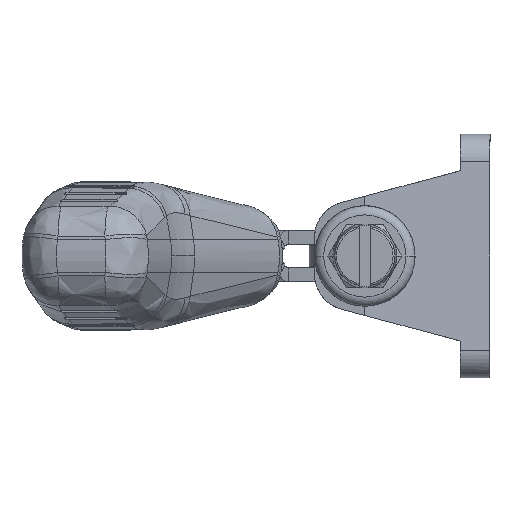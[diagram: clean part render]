
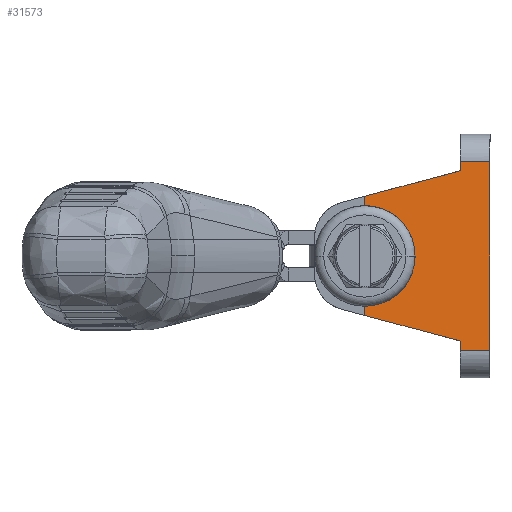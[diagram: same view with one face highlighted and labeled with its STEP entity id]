
A CAD part, left-side view. The second image highlights one B-rep face of the part: STEP entity #31573.
In plain terms, the highlighted planar face has unit normal (-0.994, -0.113, 0).
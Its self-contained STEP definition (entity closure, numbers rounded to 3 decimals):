
#1 = VECTOR ( 'NONE', #24706, 1000. ) ;
#102 = VERTEX_POINT ( 'NONE', #7738 ) ;
#174 = VECTOR ( 'NONE', #4696, 1000. ) ;
#316 = CARTESIAN_POINT ( 'NONE',  ( -17.574, -5.153, 16.585 ) ) ;
#743 = CARTESIAN_POINT ( 'NONE',  ( -16.959, -10.556, 7.16 ) ) ;
#1156 = VERTEX_POINT ( 'NONE', #6112 ) ;
#1484 = ORIENTED_EDGE ( 'NONE', *, *, #8696, .F. ) ;
#1755 = DIRECTION ( 'NONE',  ( 0., 0., -1. ) ) ;
#2256 = EDGE_CURVE ( 'NONE', #102, #10271, #28409, .T. ) ;
#2389 = LINE ( 'NONE', #31812, #6718 ) ;
#2984 = EDGE_CURVE ( 'NONE', #25524, #16398, #21893, .T. ) ;
#3245 = ORIENTED_EDGE ( 'NONE', *, *, #2256, .F. ) ;
#4384 = LINE ( 'NONE', #9190, #10253 ) ;
#4696 = DIRECTION ( 'NONE',  ( 0., 0., 1. ) ) ;
#4849 = CARTESIAN_POINT ( 'NONE',  ( -18.201, 0.347, 22.085 ) ) ;
#5042 = CARTESIAN_POINT ( 'NONE',  ( -18.201, 0.347, 11.085 ) ) ;
#5190 = ORIENTED_EDGE ( 'NONE', *, *, #5200, .F. ) ;
#5200 = EDGE_CURVE ( 'NONE', #25524, #27705, #31192, .T. ) ;
#5201 = DIRECTION ( 'NONE',  ( 0., 0., 1. ) ) ;
#6023 = ORIENTED_EDGE ( 'NONE', *, *, #18972, .F. ) ;
#6112 = CARTESIAN_POINT ( 'NONE',  ( -18.201, 0.347, 11.085 ) ) ;
#6309 = EDGE_CURVE ( 'NONE', #12832, #29922, #19453, .T. ) ;
#6718 = VECTOR ( 'NONE', #1755, 1000. ) ;
#7186 = EDGE_CURVE ( 'NONE', #31962, #10271, #26691, .T. ) ;
#7738 = CARTESIAN_POINT ( 'NONE',  ( -17.574, -5.153, 16.585 ) ) ;
#7757 = DIRECTION ( 'NONE',  ( 0.994, 0.113, 0. ) ) ;
#7991 = LINE ( 'NONE', #743, #26414 ) ;
#8180 = VECTOR ( 'NONE', #5201, 1000. ) ;
#8536 = VECTOR ( 'NONE', #26398, 1000. ) ;
#8696 = EDGE_CURVE ( 'NONE', #1156, #102, #21601, .T. ) ;
#8871 = CARTESIAN_POINT ( 'NONE',  ( -17.01, -10.103, 26.92 ) ) ;
#9127 = EDGE_CURVE ( 'NONE', #11790, #16398, #28169, .T. ) ;
#9190 = CARTESIAN_POINT ( 'NONE',  ( -16.64, -13.353, 6.25 ) ) ;
#9493 = DIRECTION ( 'NONE',  ( 0.109, -0.96, 0.257 ) ) ;
#9906 = CARTESIAN_POINT ( 'NONE',  ( -17.574, -5.153, 16.585 ) ) ;
#10151 = ORIENTED_EDGE ( 'NONE', *, *, #2984, .T. ) ;
#10253 = VECTOR ( 'NONE', #29242, 1000. ) ;
#10271 = VERTEX_POINT ( 'NONE', #4849 ) ;
#10288 = CARTESIAN_POINT ( 'NONE',  ( -17.834, -2.875, 11.085 ) ) ;
#11231 = ORIENTED_EDGE ( 'NONE', *, *, #7186, .T. ) ;
#11790 = VERTEX_POINT ( 'NONE', #28131 ) ;
#12832 = VERTEX_POINT ( 'NONE', #20150 ) ;
#13017 = FACE_OUTER_BOUND ( 'NONE', #26368, .T. ) ;
#13271 = AXIS2_PLACEMENT_3D ( 'NONE', #17763, #7757, #25282 ) ;
#13544 = VECTOR ( 'NONE', #30682, 1000. ) ;
#14731 = CARTESIAN_POINT ( 'NONE',  ( -18.201, 0.347, 25.92 ) ) ;
#14975 = CARTESIAN_POINT ( 'NONE',  ( -18.201, 0.347, 22.085 ) ) ;
#15379 = CARTESIAN_POINT ( 'NONE',  ( -17.574, -5.153, 13.363 ) ) ;
#15698 = CARTESIAN_POINT ( 'NONE',  ( -16.64, -13.353, 16.585 ) ) ;
#15922 = VECTOR ( 'NONE', #9493, 1000. ) ;
#16398 = VERTEX_POINT ( 'NONE', #30661 ) ;
#17714 = CARTESIAN_POINT ( 'NONE',  ( -17.01, -10.103, 16.585 ) ) ;
#17763 = CARTESIAN_POINT ( 'NONE',  ( -17.01, -10.103, 16.585 ) ) ;
#17834 = EDGE_CURVE ( 'NONE', #31962, #11790, #22576, .T. ) ;
#18324 = DIRECTION ( 'NONE',  ( -0.109, 0.96, 0.257 ) ) ;
#18972 = EDGE_CURVE ( 'NONE', #29922, #23980, #7991, .T. ) ;
#19453 = LINE ( 'NONE', #22390, #174 ) ;
#20150 = CARTESIAN_POINT ( 'NONE',  ( -17.01, -10.103, 6.25 ) ) ;
#20794 = CARTESIAN_POINT ( 'NONE',  ( -16.64, -13.353, 26.92 ) ) ;
#21179 = EDGE_CURVE ( 'NONE', #12832, #27705, #4384, .T. ) ;
#21601 =( BOUNDED_CURVE ( )  B_SPLINE_CURVE ( 3, ( #5042, #10288, #15379, #316 ),
 .UNSPECIFIED., .F., .F. ) 
 B_SPLINE_CURVE_WITH_KNOTS ( ( 4, 4 ),
 ( 4.712, 6.283 ),
 .UNSPECIFIED. ) 
 CURVE ( )  GEOMETRIC_REPRESENTATION_ITEM ( )  RATIONAL_B_SPLINE_CURVE ( ( 1., 0.805, 0.805, 1. ) ) 
 REPRESENTATION_ITEM ( '' )  );
#21745 = EDGE_CURVE ( 'NONE', #1156, #23980, #2389, .T. ) ;
#21893 = LINE ( 'NONE', #8871, #8536 ) ;
#22390 = CARTESIAN_POINT ( 'NONE',  ( -17.01, -10.103, 16.585 ) ) ;
#22576 = LINE ( 'NONE', #31952, #15922 ) ;
#23483 = ORIENTED_EDGE ( 'NONE', *, *, #9127, .F. ) ;
#23980 = VERTEX_POINT ( 'NONE', #31415 ) ;
#24279 = CARTESIAN_POINT ( 'NONE',  ( -17.01, -10.103, 7.282 ) ) ;
#24446 = CARTESIAN_POINT ( 'NONE',  ( -16.64, -13.353, 6.25 ) ) ;
#24706 = DIRECTION ( 'NONE',  ( 0., 0., -1. ) ) ;
#24929 = CARTESIAN_POINT ( 'NONE',  ( -17.574, -5.153, 19.807 ) ) ;
#25282 = DIRECTION ( 'NONE',  ( 0.113, -0.994, 0. ) ) ;
#25524 = VERTEX_POINT ( 'NONE', #20794 ) ;
#26368 = EDGE_LOOP ( 'NONE', ( #6023, #27951, #30532, #5190, #10151, #23483, #30269, #11231, #3245, #1484, #32243 ) ) ;
#26398 = DIRECTION ( 'NONE',  ( -0.113, 0.994, 0. ) ) ;
#26414 = VECTOR ( 'NONE', #18324, 1000. ) ;
#26691 = LINE ( 'NONE', #14731, #1 ) ;
#27705 = VERTEX_POINT ( 'NONE', #24446 ) ;
#27712 = PLANE ( 'NONE',  #13271 ) ;
#27951 = ORIENTED_EDGE ( 'NONE', *, *, #6309, .F. ) ;
#28131 = CARTESIAN_POINT ( 'NONE',  ( -17.01, -10.103, 25.92 ) ) ;
#28169 = LINE ( 'NONE', #17714, #8180 ) ;
#28409 =( BOUNDED_CURVE ( )  B_SPLINE_CURVE ( 3, ( #9906, #24929, #29960, #14975 ),
 .UNSPECIFIED., .F., .T. ) 
 B_SPLINE_CURVE_WITH_KNOTS ( ( 4, 4 ),
 ( 0., 1.571 ),
 .UNSPECIFIED. ) 
 CURVE ( )  GEOMETRIC_REPRESENTATION_ITEM ( )  RATIONAL_B_SPLINE_CURVE ( ( 1., 0.805, 0.805, 1. ) ) 
 REPRESENTATION_ITEM ( '' )  );
#29242 = DIRECTION ( 'NONE',  ( 0.113, -0.994, 0. ) ) ;
#29922 = VERTEX_POINT ( 'NONE', #24279 ) ;
#29960 = CARTESIAN_POINT ( 'NONE',  ( -17.834, -2.875, 22.085 ) ) ;
#30269 = ORIENTED_EDGE ( 'NONE', *, *, #17834, .F. ) ;
#30532 = ORIENTED_EDGE ( 'NONE', *, *, #21179, .T. ) ;
#30661 = CARTESIAN_POINT ( 'NONE',  ( -17.01, -10.103, 26.92 ) ) ;
#30682 = DIRECTION ( 'NONE',  ( 0., 0., -1. ) ) ;
#31192 = LINE ( 'NONE', #15698, #13544 ) ;
#31415 = CARTESIAN_POINT ( 'NONE',  ( -18.201, 0.347, 10.082 ) ) ;
#31573 = ADVANCED_FACE ( 'NONE', ( #13017 ), #27712, .F. ) ;
#31812 = CARTESIAN_POINT ( 'NONE',  ( -18.201, 0.347, 25.92 ) ) ;
#31952 = CARTESIAN_POINT ( 'NONE',  ( -17.01, -10.103, 25.92 ) ) ;
#31962 = VERTEX_POINT ( 'NONE', #32065 ) ;
#32065 = CARTESIAN_POINT ( 'NONE',  ( -18.201, 0.347, 23.12 ) ) ;
#32243 = ORIENTED_EDGE ( 'NONE', *, *, #21745, .T. ) ;
